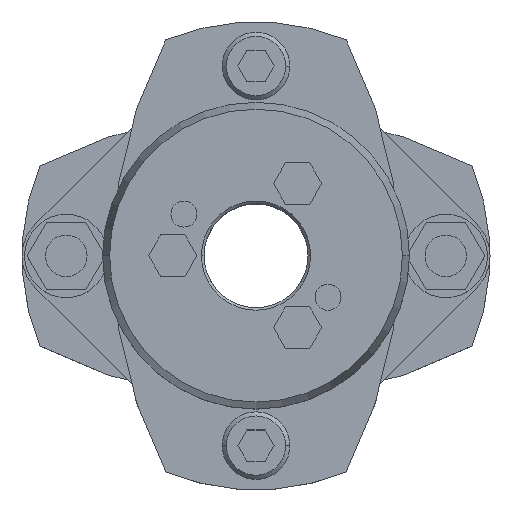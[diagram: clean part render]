
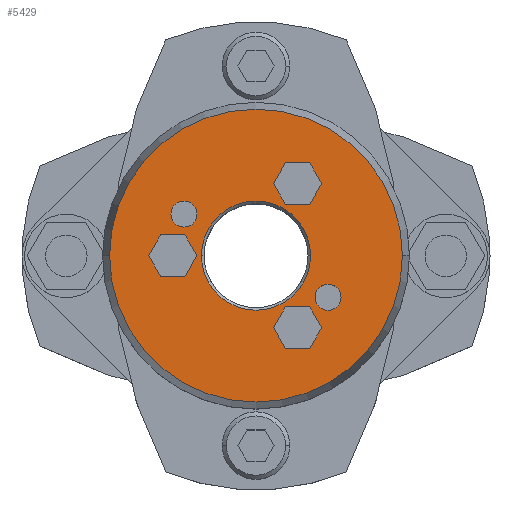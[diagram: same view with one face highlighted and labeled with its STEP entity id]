
A CAD part, top view. The second image highlights one B-rep face of the part: STEP entity #5429.
In plain terms, the highlighted planar face has unit normal (0, 0, 1).
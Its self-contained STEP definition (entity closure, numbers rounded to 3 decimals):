
#857=CARTESIAN_POINT('',(-10.5,0.,39.25));
#858=VERTEX_POINT('',#857);
#874=CARTESIAN_POINT('',(10.5,0.,39.25));
#875=VERTEX_POINT('',#874);
#882=CARTESIAN_POINT('',(0.,0.,39.25));
#883=DIRECTION('',(0.0,0.0,1.0));
#884=DIRECTION('',(-1.0,0.0,0.0));
#885=AXIS2_PLACEMENT_3D('',#882,#883,#884);
#886=CIRCLE('',#885,10.5);
#887=EDGE_CURVE('',#875,#858,#886,.T.);
#1045=CARTESIAN_POINT('',(28.16,0.,39.25));
#1046=VERTEX_POINT('',#1045);
#1053=CARTESIAN_POINT('',(-28.16,0.,39.25));
#1054=VERTEX_POINT('',#1053);
#1055=CARTESIAN_POINT('',(0.,0.,39.25));
#1056=DIRECTION('',(0.0,0.0,-1.0));
#1057=DIRECTION('',(1.0,0.0,0.0));
#1058=AXIS2_PLACEMENT_3D('',#1055,#1056,#1057);
#1059=CIRCLE('',#1058,28.16);
#1060=EDGE_CURVE('',#1046,#1054,#1059,.T.);
#1303=CARTESIAN_POINT('',(-16.356,8.,39.25));
#1304=VERTEX_POINT('',#1303);
#1320=CARTESIAN_POINT('',(-11.356,8.,39.25));
#1321=VERTEX_POINT('',#1320);
#1328=CARTESIAN_POINT('',(-13.856,8.,39.25));
#1329=DIRECTION('',(0.0,0.0,-1.0));
#1330=DIRECTION('',(-1.0,0.0,0.0));
#1331=AXIS2_PLACEMENT_3D('',#1328,#1329,#1330);
#1332=CIRCLE('',#1331,2.5);
#1333=EDGE_CURVE('',#1304,#1321,#1332,.T.);
#1345=CARTESIAN_POINT('',(11.356,-8.,39.25));
#1346=VERTEX_POINT('',#1345);
#1362=CARTESIAN_POINT('',(16.356,-8.,39.25));
#1363=VERTEX_POINT('',#1362);
#1370=CARTESIAN_POINT('',(13.856,-8.,39.25));
#1371=DIRECTION('',(0.0,0.0,-1.0));
#1372=DIRECTION('',(-1.0,0.0,0.0));
#1373=AXIS2_PLACEMENT_3D('',#1370,#1371,#1372);
#1374=CIRCLE('',#1373,2.5);
#1375=EDGE_CURVE('',#1346,#1363,#1374,.T.);
#3945=CARTESIAN_POINT('',(3.381,13.856,39.25));
#3946=VERTEX_POINT('',#3945);
#3953=CARTESIAN_POINT('',(5.691,9.856,39.25));
#3954=VERTEX_POINT('',#3953);
#3955=CARTESIAN_POINT('',(5.691,9.856,39.25));
#3956=DIRECTION('',(-0.5,0.866,0.0));
#3957=VECTOR('',#3956,4.619);
#3958=LINE('',#3955,#3957);
#3959=EDGE_CURVE('',#3954,#3946,#3958,.T.);
#3983=CARTESIAN_POINT('',(5.691,17.856,39.25));
#3984=VERTEX_POINT('',#3983);
#3991=CARTESIAN_POINT('',(3.381,13.856,39.25));
#3992=DIRECTION('',(0.5,0.866,0.0));
#3993=VECTOR('',#3992,4.619);
#3994=LINE('',#3991,#3993);
#3995=EDGE_CURVE('',#3946,#3984,#3994,.T.);
#4014=CARTESIAN_POINT('',(10.309,17.856,39.25));
#4015=VERTEX_POINT('',#4014);
#4022=CARTESIAN_POINT('',(5.691,17.856,39.25));
#4023=DIRECTION('',(1.0,0.0,0.0));
#4024=VECTOR('',#4023,4.619);
#4025=LINE('',#4022,#4024);
#4026=EDGE_CURVE('',#3984,#4015,#4025,.T.);
#4045=CARTESIAN_POINT('',(12.619,13.856,39.25));
#4046=VERTEX_POINT('',#4045);
#4053=CARTESIAN_POINT('',(10.309,17.856,39.25));
#4054=DIRECTION('',(0.5,-0.866,0.0));
#4055=VECTOR('',#4054,4.619);
#4056=LINE('',#4053,#4055);
#4057=EDGE_CURVE('',#4015,#4046,#4056,.T.);
#4076=CARTESIAN_POINT('',(10.309,9.856,39.25));
#4077=VERTEX_POINT('',#4076);
#4084=CARTESIAN_POINT('',(12.619,13.856,39.25));
#4085=DIRECTION('',(-0.5,-0.866,0.0));
#4086=VECTOR('',#4085,4.619);
#4087=LINE('',#4084,#4086);
#4088=EDGE_CURVE('',#4046,#4077,#4087,.T.);
#4106=CARTESIAN_POINT('',(10.309,9.856,39.25));
#4107=DIRECTION('',(-1.0,0.0,0.0));
#4108=VECTOR('',#4107,4.619);
#4109=LINE('',#4106,#4108);
#4110=EDGE_CURVE('',#4077,#3954,#4109,.T.);
#4145=CARTESIAN_POINT('',(-20.619,0.,39.25));
#4146=VERTEX_POINT('',#4145);
#4153=CARTESIAN_POINT('',(-18.309,-4.,39.25));
#4154=VERTEX_POINT('',#4153);
#4155=CARTESIAN_POINT('',(-18.309,-4.,39.25));
#4156=DIRECTION('',(-0.5,0.866,0.0));
#4157=VECTOR('',#4156,4.619);
#4158=LINE('',#4155,#4157);
#4159=EDGE_CURVE('',#4154,#4146,#4158,.T.);
#4183=CARTESIAN_POINT('',(-18.309,4.,39.25));
#4184=VERTEX_POINT('',#4183);
#4191=CARTESIAN_POINT('',(-20.619,0.,39.25));
#4192=DIRECTION('',(0.5,0.866,0.0));
#4193=VECTOR('',#4192,4.619);
#4194=LINE('',#4191,#4193);
#4195=EDGE_CURVE('',#4146,#4184,#4194,.T.);
#4214=CARTESIAN_POINT('',(-13.691,4.,39.25));
#4215=VERTEX_POINT('',#4214);
#4222=CARTESIAN_POINT('',(-18.309,4.,39.25));
#4223=DIRECTION('',(1.0,0.0,0.0));
#4224=VECTOR('',#4223,4.619);
#4225=LINE('',#4222,#4224);
#4226=EDGE_CURVE('',#4184,#4215,#4225,.T.);
#4245=CARTESIAN_POINT('',(-11.381,0.,39.25));
#4246=VERTEX_POINT('',#4245);
#4253=CARTESIAN_POINT('',(-13.691,4.,39.25));
#4254=DIRECTION('',(0.5,-0.866,0.0));
#4255=VECTOR('',#4254,4.619);
#4256=LINE('',#4253,#4255);
#4257=EDGE_CURVE('',#4215,#4246,#4256,.T.);
#4276=CARTESIAN_POINT('',(-13.691,-4.,39.25));
#4277=VERTEX_POINT('',#4276);
#4284=CARTESIAN_POINT('',(-11.381,0.,39.25));
#4285=DIRECTION('',(-0.5,-0.866,0.0));
#4286=VECTOR('',#4285,4.619);
#4287=LINE('',#4284,#4286);
#4288=EDGE_CURVE('',#4246,#4277,#4287,.T.);
#4306=CARTESIAN_POINT('',(-13.691,-4.,39.25));
#4307=DIRECTION('',(-1.0,0.0,0.0));
#4308=VECTOR('',#4307,4.619);
#4309=LINE('',#4306,#4308);
#4310=EDGE_CURVE('',#4277,#4154,#4309,.T.);
#4345=CARTESIAN_POINT('',(3.381,-13.856,39.25));
#4346=VERTEX_POINT('',#4345);
#4353=CARTESIAN_POINT('',(5.691,-17.856,39.25));
#4354=VERTEX_POINT('',#4353);
#4355=CARTESIAN_POINT('',(5.691,-17.856,39.25));
#4356=DIRECTION('',(-0.5,0.866,0.0));
#4357=VECTOR('',#4356,4.619);
#4358=LINE('',#4355,#4357);
#4359=EDGE_CURVE('',#4354,#4346,#4358,.T.);
#4383=CARTESIAN_POINT('',(5.691,-9.856,39.25));
#4384=VERTEX_POINT('',#4383);
#4391=CARTESIAN_POINT('',(3.381,-13.856,39.25));
#4392=DIRECTION('',(0.5,0.866,0.0));
#4393=VECTOR('',#4392,4.619);
#4394=LINE('',#4391,#4393);
#4395=EDGE_CURVE('',#4346,#4384,#4394,.T.);
#4414=CARTESIAN_POINT('',(10.309,-9.856,39.25));
#4415=VERTEX_POINT('',#4414);
#4422=CARTESIAN_POINT('',(5.691,-9.856,39.25));
#4423=DIRECTION('',(1.0,0.0,0.0));
#4424=VECTOR('',#4423,4.619);
#4425=LINE('',#4422,#4424);
#4426=EDGE_CURVE('',#4384,#4415,#4425,.T.);
#4445=CARTESIAN_POINT('',(12.619,-13.856,39.25));
#4446=VERTEX_POINT('',#4445);
#4453=CARTESIAN_POINT('',(10.309,-9.856,39.25));
#4454=DIRECTION('',(0.5,-0.866,0.0));
#4455=VECTOR('',#4454,4.619);
#4456=LINE('',#4453,#4455);
#4457=EDGE_CURVE('',#4415,#4446,#4456,.T.);
#4476=CARTESIAN_POINT('',(10.309,-17.856,39.25));
#4477=VERTEX_POINT('',#4476);
#4484=CARTESIAN_POINT('',(12.619,-13.856,39.25));
#4485=DIRECTION('',(-0.5,-0.866,0.0));
#4486=VECTOR('',#4485,4.619);
#4487=LINE('',#4484,#4486);
#4488=EDGE_CURVE('',#4446,#4477,#4487,.T.);
#4506=CARTESIAN_POINT('',(10.309,-17.856,39.25));
#4507=DIRECTION('',(-1.0,0.0,0.0));
#4508=VECTOR('',#4507,4.619);
#4509=LINE('',#4506,#4508);
#4510=EDGE_CURVE('',#4477,#4354,#4509,.T.);
#4536=CARTESIAN_POINT('',(13.856,-8.,39.25));
#4537=DIRECTION('',(0.0,0.0,-1.0));
#4538=DIRECTION('',(-1.0,0.0,0.0));
#4539=AXIS2_PLACEMENT_3D('',#4536,#4537,#4538);
#4540=CIRCLE('',#4539,2.5);
#4541=EDGE_CURVE('',#1363,#1346,#4540,.T.);
#4570=CARTESIAN_POINT('',(-13.856,8.,39.25));
#4571=DIRECTION('',(0.0,0.0,-1.0));
#4572=DIRECTION('',(-1.0,0.0,0.0));
#4573=AXIS2_PLACEMENT_3D('',#4570,#4571,#4572);
#4574=CIRCLE('',#4573,2.5);
#4575=EDGE_CURVE('',#1321,#1304,#4574,.T.);
#5368=CARTESIAN_POINT('',(0.,0.,39.25));
#5369=DIRECTION('',(0.0,0.0,-1.0));
#5370=DIRECTION('',(1.0,0.0,0.0));
#5371=AXIS2_PLACEMENT_3D('',#5368,#5369,#5370);
#5372=CIRCLE('',#5371,28.16);
#5373=EDGE_CURVE('',#1054,#1046,#5372,.T.);
#5378=CARTESIAN_POINT('',(-2.682,0.,39.25));
#5379=DIRECTION('',(0.0,0.0,1.0));
#5380=DIRECTION('',(-1.0,0.0,0.0));
#5381=AXIS2_PLACEMENT_3D('',#5378,#5379,#5380);
#5382=PLANE('',#5381);
#5383=ORIENTED_EDGE('',*,*,#5373,.F.);
#5384=ORIENTED_EDGE('',*,*,#1060,.F.);
#5385=EDGE_LOOP('',(#5383,#5384));
#5386=FACE_OUTER_BOUND('',#5385,.T.);
#5387=ORIENTED_EDGE('',*,*,#3959,.T.);
#5388=ORIENTED_EDGE('',*,*,#3995,.T.);
#5389=ORIENTED_EDGE('',*,*,#4026,.T.);
#5390=ORIENTED_EDGE('',*,*,#4057,.T.);
#5391=ORIENTED_EDGE('',*,*,#4088,.T.);
#5392=ORIENTED_EDGE('',*,*,#4110,.T.);
#5393=EDGE_LOOP('',(#5387,#5388,#5389,#5390,#5391,#5392));
#5394=FACE_BOUND('',#5393,.T.);
#5395=ORIENTED_EDGE('',*,*,#4159,.T.);
#5396=ORIENTED_EDGE('',*,*,#4195,.T.);
#5397=ORIENTED_EDGE('',*,*,#4226,.T.);
#5398=ORIENTED_EDGE('',*,*,#4257,.T.);
#5399=ORIENTED_EDGE('',*,*,#4288,.T.);
#5400=ORIENTED_EDGE('',*,*,#4310,.T.);
#5401=EDGE_LOOP('',(#5395,#5396,#5397,#5398,#5399,#5400));
#5402=FACE_BOUND('',#5401,.T.);
#5403=ORIENTED_EDGE('',*,*,#4359,.T.);
#5404=ORIENTED_EDGE('',*,*,#4395,.T.);
#5405=ORIENTED_EDGE('',*,*,#4426,.T.);
#5406=ORIENTED_EDGE('',*,*,#4457,.T.);
#5407=ORIENTED_EDGE('',*,*,#4488,.T.);
#5408=ORIENTED_EDGE('',*,*,#4510,.T.);
#5409=EDGE_LOOP('',(#5403,#5404,#5405,#5406,#5407,#5408));
#5410=FACE_BOUND('',#5409,.T.);
#5411=ORIENTED_EDGE('',*,*,#1375,.T.);
#5412=ORIENTED_EDGE('',*,*,#4541,.T.);
#5413=EDGE_LOOP('',(#5411,#5412));
#5414=FACE_BOUND('',#5413,.T.);
#5415=ORIENTED_EDGE('',*,*,#1333,.T.);
#5416=ORIENTED_EDGE('',*,*,#4575,.T.);
#5417=EDGE_LOOP('',(#5415,#5416));
#5418=FACE_BOUND('',#5417,.T.);
#5419=ORIENTED_EDGE('',*,*,#887,.F.);
#5420=CARTESIAN_POINT('',(0.,0.,39.25));
#5421=DIRECTION('',(0.0,0.0,1.0));
#5422=DIRECTION('',(-1.0,0.0,0.0));
#5423=AXIS2_PLACEMENT_3D('',#5420,#5421,#5422);
#5424=CIRCLE('',#5423,10.5);
#5425=EDGE_CURVE('',#858,#875,#5424,.T.);
#5426=ORIENTED_EDGE('',*,*,#5425,.F.);
#5427=EDGE_LOOP('',(#5419,#5426));
#5428=FACE_BOUND('',#5427,.T.);
#5429=ADVANCED_FACE('',(#5386,#5394,#5402,#5410,#5414,#5418,#5428),#5382,.T.);
